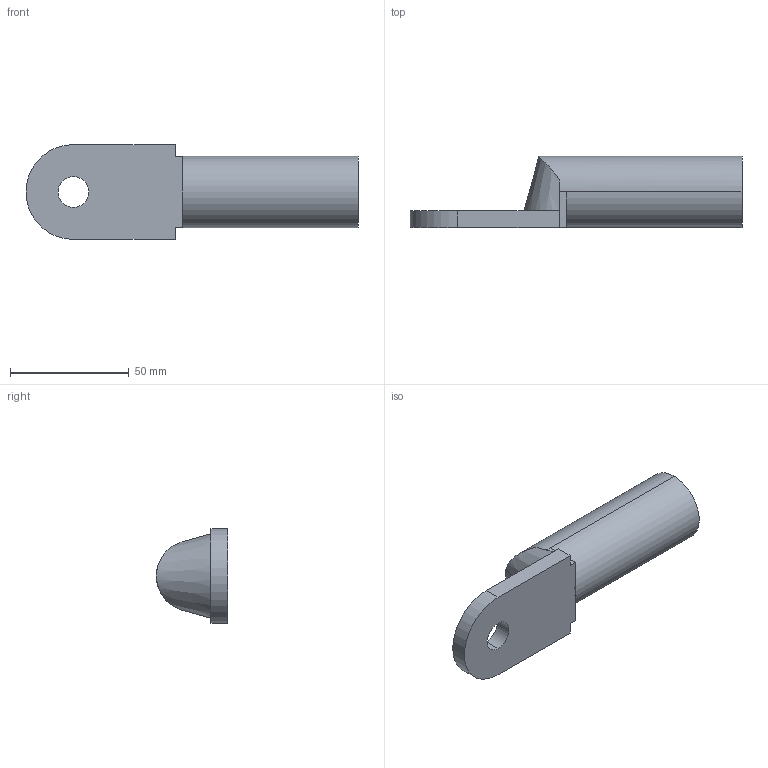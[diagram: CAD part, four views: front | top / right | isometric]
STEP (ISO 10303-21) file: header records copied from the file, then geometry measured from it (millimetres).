
FILE_DESCRIPTION (( 'STEP AP214' ), '1' );
FILE_NAME ('DL-240-12.STEP', '2020-04-24T12:32:22', ( '' ), ( '' ), 'SwSTEP 2.0', 'SolidWorks 2018', '' );
FILE_SCHEMA (( 'AUTOMOTIVE_DESIGN' ));
Length unit declared in the file: millimetre
Products named in the file (1): DL-240-12
Bounding box: 140 x 30 x 40 mm (x, y, z)
Volume: 50480.8 mm3; surface area: 19503.3 mm2
Topology: 1 solids, 1 shells, 20 faces, 48 edges, 31 vertices
Faces by surface type: plane 12, cylinder 7, cone 1
Entity records: 682 total; most frequent: CARTESIAN_POINT 165, DIRECTION 104, ORIENTED_EDGE 96, EDGE_CURVE 48, AXIS2_PLACEMENT_3D 38, VERTEX_POINT 31, LINE 28, VECTOR 28
